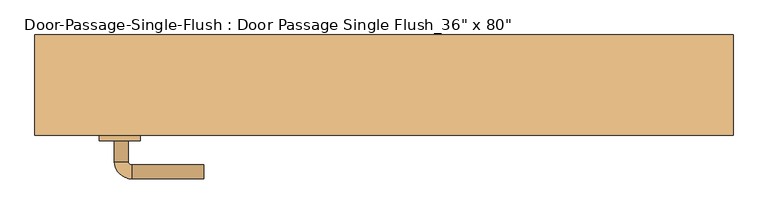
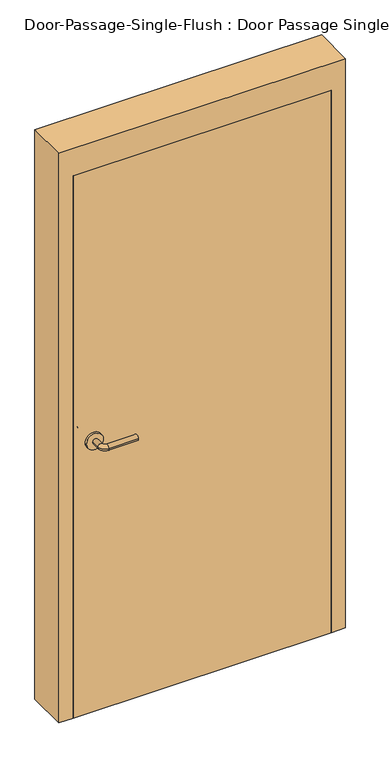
"""IFC4 building model written with IfcOpenShell, lengths in millimetres: door geometry."""

from ifc_helpers import new_model, si_unit, point, frame, frame_2d, origin, origin_with_axes, place, context, project, spatial, polyline, circle_curve, ellipse_curve, trimmed, segment, composite_curve, outline, extrude, faceted_brep, source, transform, mapped, element, save
from ifc_brep_helpers import plane_surface, cylinder_surface, revolved_surface, advanced_brep


def door_c4c6d6d8(model_context):
    return source(origin(), model_context, "Body", "SolidModel", [
        advanced_brep(
        [(-392.190625, -30.1, 1016.0), (-372.190625, -30.1, 1016.0), (-392.190625, -0.1, 1016.0), (-372.190625, -0.1, 1016.0), (-367.190625, 4.9, 1016.0), (-367.190625, 24.9, 1016.0), (-262.190625, 24.9, 1016.0), (-262.190625, 4.9, 1016.0)],
        [
            (0, 1, circle_curve(frame((-382.190625, -30.1, 1016.0), z_axis=(0.0, -1.0, 0.0), x_axis=(1.0, 0.0, 0.0)), 10.0)),
            (1, 0, circle_curve(frame((-382.190625, -30.1, 1016.0), z_axis=(0.0, -1.0, 0.0), x_axis=(1.0, 0.0, 0.0)), 10.0)),
            (0, 2),
            (2, 3, circle_curve(frame((-382.190625, -0.1, 1016.0), z_axis=(0.0, -1.0, 0.0), x_axis=(1.0, 0.0, 0.0)), 10.0)),
            (3, 1),
            (3, 2, circle_curve(frame((-382.190625, -0.1, 1016.0), z_axis=(0.0, -1.0, 0.0), x_axis=(1.0, 0.0, 0.0)), 10.0)),
            (4, 3, circle_curve(frame((-367.190625, -0.1, 1016.0), z_axis=(0.0, 0.0, 1.0), x_axis=(-1.0, 0.0, 0.0)), 5.0)),
            (2, 5, circle_curve(frame((-367.190625, -0.1, 1016.0), z_axis=(0.0, 0.0, -1.0), x_axis=(-1.0, 0.0, 0.0)), 25.0)),
            (5, 4, circle_curve(frame((-367.190625, 14.9, 1016.0), z_axis=(-1.0, 0.0, 0.0), x_axis=(0.0, -1.0, 0.0)), 10.0)),
            (4, 5, circle_curve(frame((-367.190625, 14.9, 1016.0), z_axis=(-1.0, 0.0, 0.0), x_axis=(0.0, -1.0, 0.0)), 10.0)),
            (6, 7, circle_curve(frame((-262.190625, 14.9, 1016.0), z_axis=(1.0, 0.0, 0.0), x_axis=(0.0, -1.0, 0.0)), 10.0)),
            (7, 6, circle_curve(frame((-262.190625, 14.9, 1016.0), z_axis=(1.0, 0.0, 0.0), x_axis=(0.0, -1.0, 0.0)), 10.0)),
            (5, 6),
            (7, 4),
        ],
        [
            plane_surface(frame((-382.190625, -30.1, 1016.0), z_axis=(0.0, -1.0, 0.0), x_axis=(0.0, 0.0, 1.0))),
            cylinder_surface(frame((-382.190625, -30.1, 1016.0), z_axis=(0.0, -1.0, 0.0), x_axis=(1.0, 0.0, 0.0)), 10.0),
            revolved_surface(trimmed(ellipse_curve(frame((-382.190625, -0.1, 1016.0), z_axis=(0.0, -1.0, 0.0), x_axis=(1.0, 0.0, 0.0)), 10.0, 10.0), [point((-392.190625, -0.1, 1016.0))], [point((-372.190625, -0.1, 1016.0))], True, "CARTESIAN"), (-367.190625, -0.1, 1016.0), (0.0, 0.0, -1.0)),
            revolved_surface(trimmed(ellipse_curve(frame((-382.190625, -0.1, 1016.0), z_axis=(0.0, -1.0, 0.0), x_axis=(1.0, 0.0, 0.0)), 10.0, 10.0), [point((-372.190625, -0.1, 1016.0))], [point((-392.190625, -0.1, 1016.0))], True, "CARTESIAN"), (-367.190625, -0.1, 1016.0), (0.0, 0.0, -1.0)),
            plane_surface(frame((-262.190625, 14.9, 1016.0), z_axis=(1.0, 0.0, 0.0), x_axis=(0.0, 0.0, 1.0))),
            cylinder_surface(frame((-367.190625, 14.9, 1016.0), z_axis=(-1.0, 0.0, 0.0), x_axis=(0.0, -1.0, 0.0)), 10.0),
        ],
        [
            (0, [[1, 2]]),
            (1, [[-1, 3, 4, 5]]),
            (1, [[-2, -5, 6, -3]]),
            (2, [[7, -4, 8, 9]]),
            (3, [[-8, -6, -7, 10]]),
            (4, [[11, 12]]),
            (5, [[-9, 13, -12, 14]]),
            (5, [[-10, -14, -11, -13]]),
        ],
    ),
        extrude(outline(composite_curve([segment(trimmed(circle_curve(frame_2d((1016.0, -384.690625)), 30.0), [point((1016.0, -414.690625))], [point((1016.0, -354.690625))], False, "CARTESIAN"), True, "CONTINUOUS"), segment(trimmed(circle_curve(frame_2d((1016.0, -384.690625)), 30.0), [point((1016.0, -354.690625))], [point((1016.0, -414.690625))], False, "CARTESIAN"), True, "CONTINUOUS")], self_intersect=False)), frame((0.0, -38.1, 0.0), z_axis=(0.0, 1.0, 0.0), x_axis=(0.0, 0.0, 1.0)), (0.0, 0.0, 1.0), 8.0),
        advanced_brep(
        [(-392.190625, -90.55, 1016.0), (-372.190625, -90.55, 1016.0), (-372.190625, -120.55, 1016.0), (-392.190625, -120.55, 1016.0), (-367.190625, -125.55, 1016.0), (-367.190625, -145.55, 1016.0), (-262.190625, -145.55, 1016.0), (-262.190625, -125.55, 1016.0)],
        [
            (0, 1, circle_curve(frame((-382.190625, -90.55, 1016.0), z_axis=(0.0, 1.0, 0.0), x_axis=(1.0, 0.0, 0.0)), 10.0)),
            (1, 0, circle_curve(frame((-382.190625, -90.55, 1016.0), z_axis=(0.0, 1.0, 0.0), x_axis=(1.0, 0.0, 0.0)), 10.0)),
            (1, 2),
            (2, 3, circle_curve(frame((-382.190625, -120.55, 1016.0), z_axis=(0.0, 1.0, 0.0), x_axis=(1.0, 0.0, 0.0)), 10.0)),
            (3, 0),
            (3, 2, circle_curve(frame((-382.190625, -120.55, 1016.0), z_axis=(0.0, 1.0, 0.0), x_axis=(1.0, 0.0, 0.0)), 10.0)),
            (4, 5, circle_curve(frame((-367.190625, -135.55, 1016.0), z_axis=(-1.0, 0.0, 0.0), x_axis=(0.0, 1.0, 0.0)), 10.0)),
            (5, 3, circle_curve(frame((-367.190625, -120.55, 1016.0), z_axis=(0.0, 0.0, -1.0), x_axis=(-1.0, 0.0, 0.0)), 25.0)),
            (2, 4, circle_curve(frame((-367.190625, -120.55, 1016.0), z_axis=(0.0, 0.0, 1.0), x_axis=(-1.0, 0.0, 0.0)), 5.0)),
            (5, 4, circle_curve(frame((-367.190625, -135.55, 1016.0), z_axis=(-1.0, 0.0, 0.0), x_axis=(0.0, 1.0, 0.0)), 10.0)),
            (6, 7, circle_curve(frame((-262.190625, -135.55, 1016.0), z_axis=(1.0, 0.0, 0.0), x_axis=(0.0, 1.0, 0.0)), 10.0)),
            (7, 6, circle_curve(frame((-262.190625, -135.55, 1016.0), z_axis=(1.0, 0.0, 0.0), x_axis=(0.0, 1.0, 0.0)), 10.0)),
            (4, 7),
            (6, 5),
        ],
        [
            plane_surface(frame((-382.190625, -90.55, 1016.0), z_axis=(0.0, 1.0, 0.0), x_axis=(0.0, 0.0, 1.0))),
            cylinder_surface(frame((-382.190625, -90.55, 1016.0), z_axis=(0.0, 1.0, 0.0), x_axis=(1.0, 0.0, 0.0)), 10.0),
            revolved_surface(trimmed(ellipse_curve(frame((-382.190625, -120.55, 1016.0), z_axis=(0.0, -1.0, 0.0), x_axis=(1.0, 0.0, 0.0)), 10.0, 10.0), [point((-392.190625, -120.55, 1016.0))], [point((-372.190625, -120.55, 1016.0))], True, "CARTESIAN"), (-367.190625, -120.55, 1016.0), (0.0, 0.0, -1.0)),
            revolved_surface(trimmed(ellipse_curve(frame((-382.190625, -120.55, 1016.0), z_axis=(0.0, -1.0, 0.0), x_axis=(1.0, 0.0, 0.0)), 10.0, 10.0), [point((-372.190625, -120.55, 1016.0))], [point((-392.190625, -120.55, 1016.0))], True, "CARTESIAN"), (-367.190625, -120.55, 1016.0), (0.0, 0.0, -1.0)),
            plane_surface(frame((-262.190625, -135.55, 1016.0), z_axis=(1.0, 0.0, 0.0), x_axis=(0.0, 0.0, 1.0))),
            cylinder_surface(frame((-367.190625, -135.55, 1016.0), z_axis=(-1.0, 0.0, 0.0), x_axis=(0.0, 1.0, 0.0)), 10.0),
        ],
        [
            (0, [[1, 2]]),
            (1, [[3, 4, 5, -2]]),
            (1, [[-5, 6, -3, -1]]),
            (2, [[7, 8, -4, 9]]),
            (3, [[10, -9, -6, -8]]),
            (4, [[11, 12]]),
            (5, [[13, -11, 14, -7]]),
            (5, [[-14, -12, -13, -10]]),
        ],
    ),
        extrude(outline(composite_curve([segment(trimmed(circle_curve(frame_2d((1016.0, -384.690625)), 30.0), [point((1016.0, -414.690625))], [point((1016.0, -354.690625))], False, "CARTESIAN"), True, "CONTINUOUS"), segment(trimmed(circle_curve(frame_2d((1016.0, -384.690625)), 30.0), [point((1016.0, -354.690625))], [point((1016.0, -414.690625))], False, "CARTESIAN"), True, "CONTINUOUS")], self_intersect=False)), frame((0.0, -90.55, 0.0), z_axis=(0.0, 1.0, 0.0), x_axis=(0.0, 0.0, 1.0)), (0.0, 0.0, 1.0), 8.0),
        faceted_brep([(457.2, -33.3375, 0.0), (441.325, -33.3375, 0.0), (441.325, 14.2875, 0.0), (457.2, 14.2875, 0.0), (457.2, 63.5, 0.0), (508.0, 63.5, 0.0), (508.0, -82.55, 0.0), (457.2, -82.55, 0.0), (457.2, -82.55, 2032.0), (457.2, -33.3375, 2032.0), (508.0, -82.55, 2133.6), (-508.0, -82.55, 2133.6), (-508.0, -82.55, 0.0), (-457.2, -82.55, 0.0), (-457.2, -82.55, 2032.0), (508.0, 63.5, 2133.6), (457.2, 63.5, 2032.0), (-457.2, 63.5, 2032.0), (-457.2, 63.5, 0.0), (-508.0, 63.5, 0.0), (-508.0, 63.5, 2133.6), (457.2, 14.2875, 2032.0), (441.325, 14.2875, 2016.125), (-441.325, 14.2875, 2016.125), (-441.325, 14.2875, 0.0), (-457.2, 14.2875, 0.0), (-457.2, 14.2875, 2032.0), (441.325, -33.3375, 2016.125), (-457.2, -33.3375, 2032.0), (-457.2, -33.3375, 0.0), (-441.325, -33.3375, 0.0), (-441.325, -33.3375, 2016.125)], [[[0, 1, 2, 3, 4, 5, 6, 7]], [[7, 8, 9, 0]], [[6, 10, 11, 12, 13, 14, 8, 7]], [[5, 15, 10, 6]], [[4, 16, 17, 18, 19, 20, 15, 5]], [[3, 21, 16, 4]], [[2, 22, 23, 24, 25, 26, 21, 3]], [[1, 27, 22, 2]], [[0, 9, 28, 29, 30, 31, 27, 1]], [[8, 14, 28, 9]], [[16, 21, 26, 17]], [[22, 27, 31, 23]], [[12, 19, 18, 25, 24, 30, 29, 13]], [[13, 29, 28, 14]], [[11, 20, 19, 12]], [[17, 26, 25, 18]], [[23, 31, 30, 24]], [[15, 20, 11, 10]]]),
        extrude(outline(polyline([(457.2, -38.1), (457.2, -82.55), (-457.2, -82.55), (-457.2, -38.1), (457.2, -38.1)])), origin_with_axes(), (0.0, 0.0, 1.0), 2032.0),
    ])


if __name__ == "__main__":
    model = new_model("IFC4")
    model_context = context("Model", 3, world=origin())
    ifc_project = project(units=[si_unit("LENGTHUNIT", "METRE", prefix="MILLI")], contexts=[model_context])
    site = spatial("IfcSite", under=ifc_project)
    building = spatial("IfcBuilding", under=site)
    placement = place(None, origin())
    door_shape = door_c4c6d6d8(model_context)
    element("IfcDoor", 1, ObjectType="Door-Passage-Single-Flush : Door Passage Single Flush_36\" x 80\"", at=placement, inside=building, context=model_context, shape_type="MappedRepresentation", body=[
        mapped(door_shape, transform((0.0, 0.0, 0.0), x_axis=(1.0, 0.0, 0.0), y_axis=(0.0, 1.0, 0.0), z_axis=(0.0, 0.0, 1.0))),
    ])
    save(model, "model.ifc")
